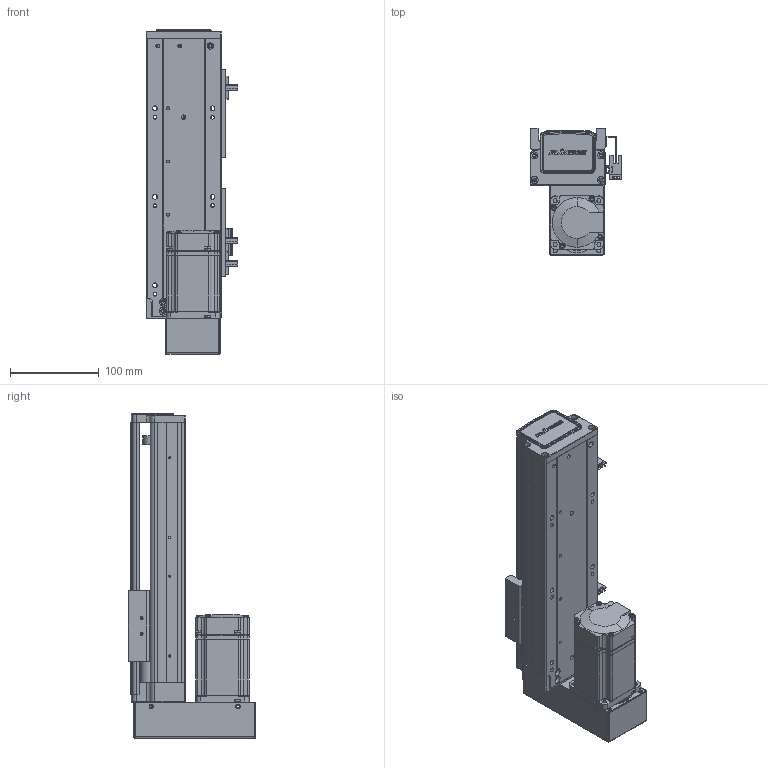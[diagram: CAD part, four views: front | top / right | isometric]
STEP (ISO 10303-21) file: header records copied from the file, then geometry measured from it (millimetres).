
FILE_DESCRIPTION (( 'STEP AP203' ), '1' );
FILE_NAME ('RY80-L1620-300-BK.SLDASM_150.step', '2021-02-20T07:10:19', ( '盈信电脑' ), ( '东莞市道滘镇水果街19号' ), 'SwSTEP 2.0', 'SolidWorks 2012', '' );
FILE_SCHEMA (( 'CONFIG_CONTROL_DESIGN' ));
Length unit declared in the file: millimetre
Products named in the file (15): 滅袉蝶18-24; RY80-L1620-300-BK.SLDASM_150; RY80狟殏俋欶; RY80转接电机端支撑座; RY80狟殏萇儂假蚾啣; 侂狟200W萇儂; 1; T倰羞; RY80俋离覜茼え; 覜茼ん672; RY80綴裔啣; RY80-300蛌諉倰第奻裔啣-BK_150; RY80臏賑輸; 滅袉蝶18-10; RY80-300蛌諉倰第菁釱-BK_150
Assembly tree (17 placements, depth 3):
  RY80-L1620-300-BK.SLDASM_150
    RY80-300蛌諉倰第菁釱-BK_150
    RY80臏賑輸
    RY80-300蛌諉倰第奻裔啣-BK_150
    RY80綴裔啣
    滅袉蝶18-10
    T倰羞  x2
    覜茼ん672  x3
    RY80俋离覜茼え
    RY80转接电机端支撑座
    侂狟200W萇儂
      1
    RY80狟殏萇儂假蚾啣
    RY80狟殏俋欶
    滅袉蝶18-24
Bounding box: 103.7 x 144 x 367 mm (x, y, z)
Volume: 1034515 mm3; surface area: 368683.8 mm2
Topology: 16 solids, 16 shells, 2013 faces, 5509 edges, 3567 vertices
Faces by surface type: plane 1140, cylinder 680, cone 131, bspline 62
Entity records: 62519 total; most frequent: CARTESIAN_POINT 15194, ORIENTED_EDGE 9714, DIRECTION 9178, EDGE_CURVE 4857, VERTEX_POINT 3183, VECTOR 3136, LINE 3136, AXIS2_PLACEMENT_3D 3021
